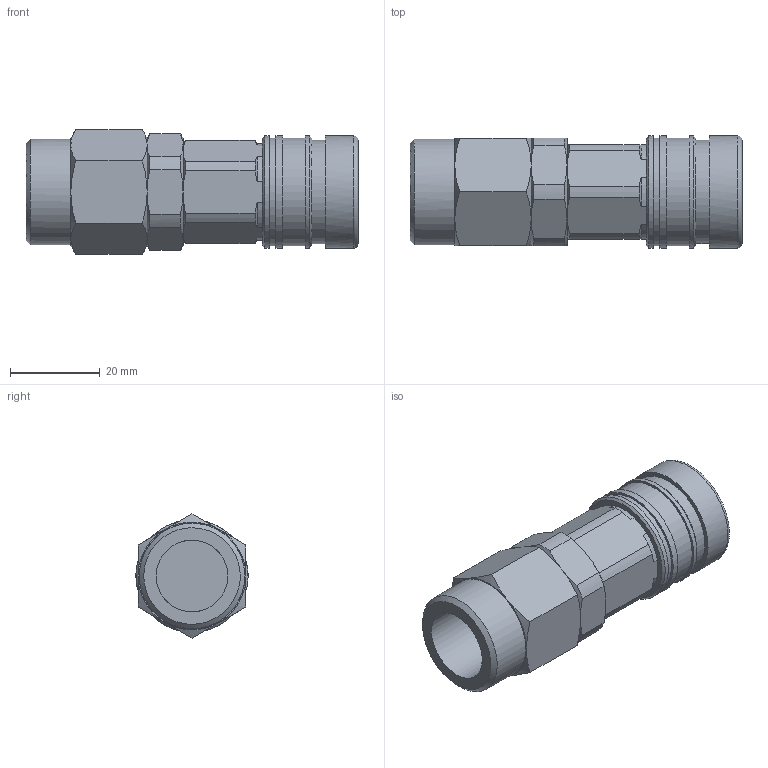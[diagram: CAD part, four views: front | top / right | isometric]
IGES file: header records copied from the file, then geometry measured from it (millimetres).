
Global section: file name: [04] CHS-11H-MP; native system: Autodesk Inventor 2014; preprocessor: unknown; author: kazuhiro.t; date: 20130805.154249; units: millimetre
Bounding box: 74 x 24.99 x 27.71 mm (x, y, z)
Volume: 27559.6 mm3; surface area: 8716.8 mm2
Topology: 1 solids, 1 shells, 99 faces, 222 edges, 136 vertices
Faces by surface type: bspline 99
